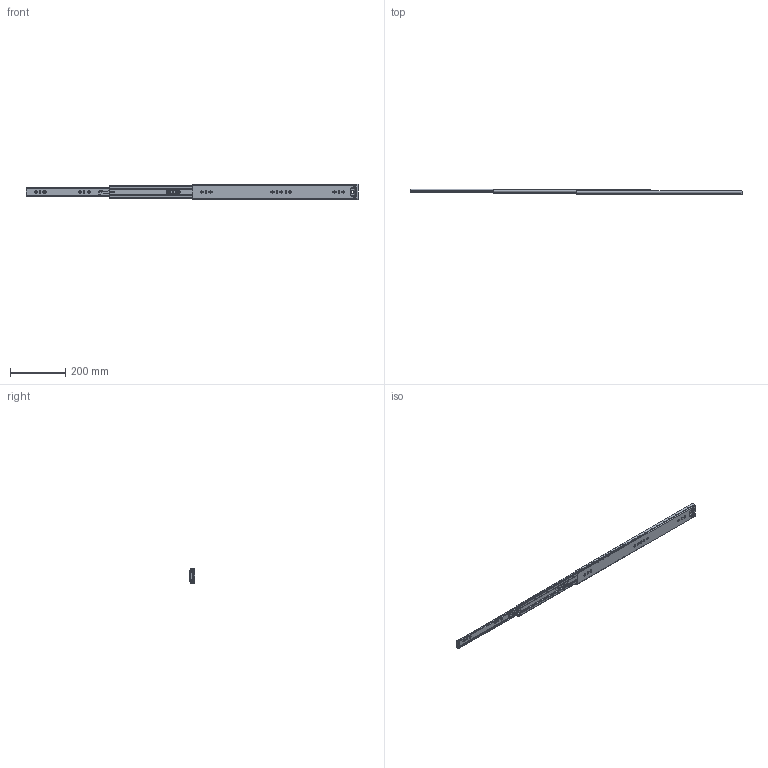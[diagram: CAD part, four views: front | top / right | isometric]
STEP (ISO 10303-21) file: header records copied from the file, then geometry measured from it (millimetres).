
FILE_DESCRIPTION((''),'2;1');
FILE_NAME('1057-02-24_ASM','2023-12-23T',('jishu015'),(''),'PRO/ENGINEER BY PARAMETRIC TECHNOLOGY CORPORATION, 2010280','PRO/ENGINEER BY PARAMETRIC TECHNOLOGY CORPORATION, 2010280','');
FILE_SCHEMA(('CONFIG_CONTROL_DESIGN'));
Products named in the file (14): KP-57-01WEIKE-18____; 1057WEIJIAO____; 1057DAZHUJIA-14GE____; 1057-5-6GANZHU____; 1057DAZHUJIA-14GE_____ASM; KP-57-01ZHONGGUI-18____; 57-ZHONGGUIDINWEIJIAN____; KP-57-01ZHONGGUI-18_____ASM; 1057XIAOZHUJIA____; 1057XIAOZHUJIA-14GE_____ASM; KP-57-01NEIGUI-18____; 45TIEBACHA____; KP-57-01NEIGUI-18_____ASM; 1057-02-24_ASM
Assembly tree (96 placements, depth 3):
  1057-02-24_ASM
    KP-57-01WEIKE-18____
    1057WEIJIAO____
    1057DAZHUJIA-14GE_____ASM
      1057DAZHUJIA-14GE____
      1057-5-6GANZHU____  x40
    KP-57-01ZHONGGUI-18_____ASM
      KP-57-01ZHONGGUI-18____
      57-ZHONGGUIDINWEIJIAN____
    1057XIAOZHUJIA-14GE_____ASM
      1057XIAOZHUJIA____
      1057-5-6GANZHU____  x44
    KP-57-01NEIGUI-18_____ASM
      KP-57-01NEIGUI-18____
      45TIEBACHA____
Bounding box: 1200 x 19 x 57.67 mm (x, y, z)
Volume: 262001.8 mm3; surface area: 305176.2 mm2
Topology: 92 solids, 94 shells, 2421 faces, 6768 edges, 4188 vertices
Faces by surface type: plane 1143, cylinder 982, sphere 176, cone 66, bspline 48, torus 6
Entity records: 75893 total; most frequent: CARTESIAN_POINT 15509, DIRECTION 12820, ORIENTED_EDGE 12512, EDGE_CURVE 6258, AXIS2_PLACEMENT_3D 4391, VECTOR 4038, LINE 4038, VERTEX_POINT 4022
